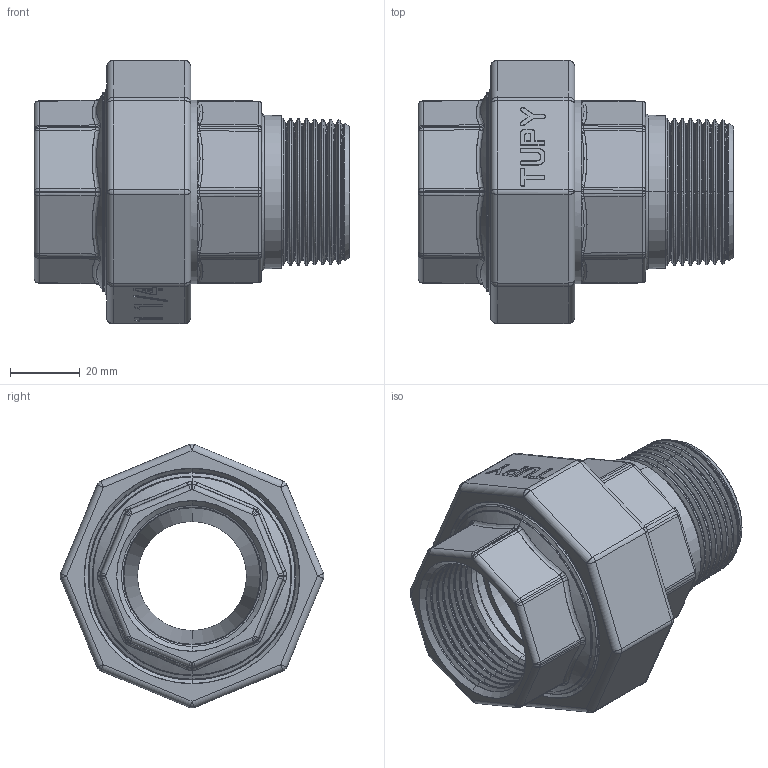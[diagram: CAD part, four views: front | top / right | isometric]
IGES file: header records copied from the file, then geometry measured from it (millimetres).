
Start section: SolidWorks IGES file using analytic representation for surfaces
Global section: file name: C:\Users\Joel Rosa\Desktop\Tubulação\12-65-X\12-65-008.IGS; native system: SolidWorks 2011; preprocessor: SolidWorks 2011; author: Joel Rosa; date: 130721.183314; units: millimetre
Bounding box: 90.25 x 75.45 x 75.45 mm (x, y, z)
Surface area: 49747.6 mm2 (no closed solid volume)
Topology: 0 solids, 0 shells, 698 faces, 5230 edges, 5224 vertices
Faces by surface type: bspline 463, revolution 235
